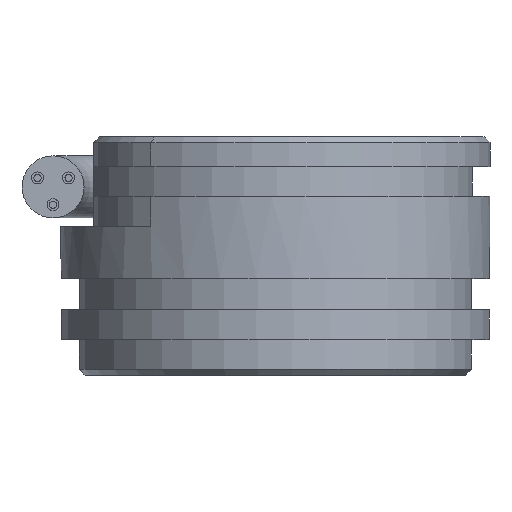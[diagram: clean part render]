
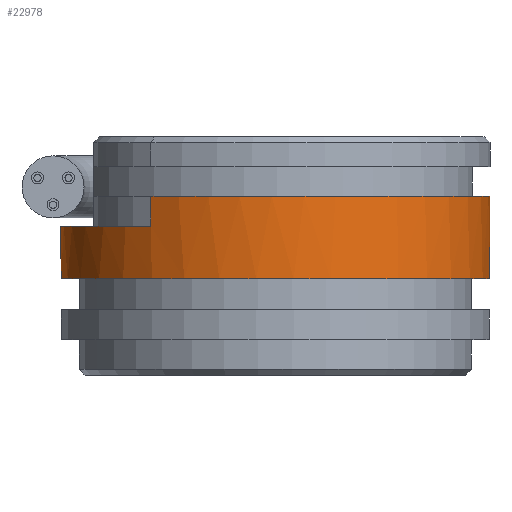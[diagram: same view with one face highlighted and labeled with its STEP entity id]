
A CAD part, left-side view. The second image highlights one B-rep face of the part: STEP entity #22978.
In plain terms, the highlighted cylindrical face has radius 18 mm (diameter 36 mm), a full revolution.
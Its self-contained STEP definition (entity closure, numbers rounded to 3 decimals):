
#22800=CARTESIAN_POINT('',(15.818,8.59,11.8));
#22801=VERTEX_POINT('',#22800);
#22809=CARTESIAN_POINT('',(-14.677,10.421,11.8));
#22810=VERTEX_POINT('',#22809);
#22811=CARTESIAN_POINT('',(0.,0.,11.8));
#22812=DIRECTION('',(0.0,0.0,-1.0));
#22813=DIRECTION('',(-1.0,0.0,0.0));
#22814=AXIS2_PLACEMENT_3D('',#22811,#22812,#22813);
#22815=CIRCLE('',#22814,18.0);
#22816=EDGE_CURVE('',#22810,#22801,#22815,.T.);
#22900=CARTESIAN_POINT('',(-14.677,10.421,14.3));
#22901=VERTEX_POINT('',#22900);
#22902=CARTESIAN_POINT('',(-14.677,10.421,11.8));
#22903=DIRECTION('',(0.0,0.0,1.0));
#22904=VECTOR('',#22903,2.5);
#22905=LINE('',#22902,#22904);
#22906=EDGE_CURVE('',#22810,#22901,#22905,.T.);
#22943=CARTESIAN_POINT('',(0.,0.,0.0));
#22944=DIRECTION('',(0.0,0.0,1.0));
#22945=DIRECTION('',(-1.0,0.0,0.0));
#22946=AXIS2_PLACEMENT_3D('',#22943,#22944,#22945);
#22947=CYLINDRICAL_SURFACE('',#22946,18.0);
#22948=CARTESIAN_POINT('',(-16.327,-7.578,7.4));
#22949=VERTEX_POINT('',#22948);
#22950=CARTESIAN_POINT('',(0.,0.,7.4));
#22951=DIRECTION('',(0.,0.,1.));
#22952=DIRECTION('',(-0.907,-0.421,0.));
#22953=AXIS2_PLACEMENT_3D('',#22950,#22951,#22952);
#22954=CIRCLE('',#22953,18.0);
#22955=EDGE_CURVE('',#22949,#22949,#22954,.T.);
#22956=ORIENTED_EDGE('',*,*,#22955,.T.);
#22957=EDGE_LOOP('',(#22956));
#22958=FACE_OUTER_BOUND('',#22957,.T.);
#22959=CARTESIAN_POINT('',(15.818,8.59,14.3));
#22960=VERTEX_POINT('',#22959);
#22961=CARTESIAN_POINT('',(0.,0.,14.3));
#22962=DIRECTION('',(0.0,0.0,-1.0));
#22963=DIRECTION('',(-1.0,0.0,0.0));
#22964=AXIS2_PLACEMENT_3D('',#22961,#22962,#22963);
#22965=CIRCLE('',#22964,18.0);
#22966=EDGE_CURVE('',#22960,#22901,#22965,.T.);
#22967=ORIENTED_EDGE('',*,*,#22966,.T.);
#22968=ORIENTED_EDGE('',*,*,#22906,.F.);
#22969=ORIENTED_EDGE('',*,*,#22816,.T.);
#22970=CARTESIAN_POINT('',(15.818,8.59,11.8));
#22971=DIRECTION('',(0.0,0.0,1.0));
#22972=VECTOR('',#22971,2.5);
#22973=LINE('',#22970,#22972);
#22974=EDGE_CURVE('',#22801,#22960,#22973,.T.);
#22975=ORIENTED_EDGE('',*,*,#22974,.T.);
#22976=EDGE_LOOP('',(#22967,#22968,#22969,#22975));
#22977=FACE_BOUND('',#22976,.T.);
#22978=ADVANCED_FACE('',(#22958,#22977),#22947,.T.);
